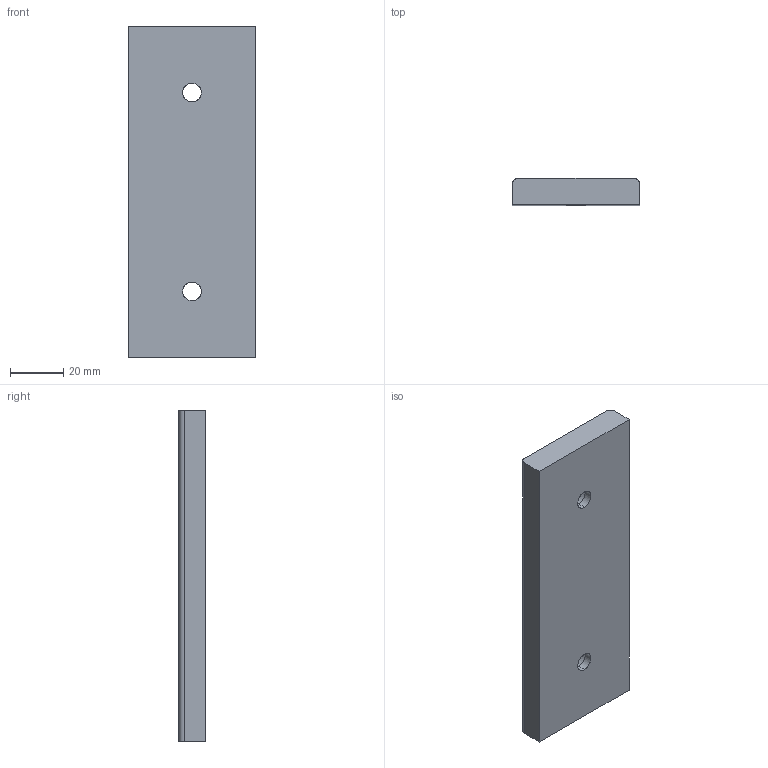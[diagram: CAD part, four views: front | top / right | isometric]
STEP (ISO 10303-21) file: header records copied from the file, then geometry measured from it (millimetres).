
FILE_DESCRIPTION(('CATIA V5 STEP Exchange'),'2;1');
FILE_NAME('C:\Users\Utente\Desktop\3D files A606\A606-048-125.stp','2020-04-13T18:04:03+00:00',('none'),('none'),'CATIA Version 5 Release 20 GA (IN-10)','CATIA V5 STEP AP203','none');
FILE_SCHEMA(('CONFIG_CONTROL_DESIGN'));
Length unit declared in the file: millimetre
Products named in the file (1): Noname
Bounding box: 48 x 10 x 125 mm (x, y, z)
Surface area: 15703.8 mm2 (no closed solid volume)
Topology: 0 solids, 14 shells, 18 faces, 76 edges, 68 vertices
Faces by surface type: cylinder 10, extrusion 8
Entity records: 1044 total; most frequent: CARTESIAN_POINT 415, DIRECTION 84, ORIENTED_EDGE 84, EDGE_CURVE 76, VERTEX_POINT 68, VECTOR 44, LINE 36, AXIS2_PLACEMENT_3D 31
